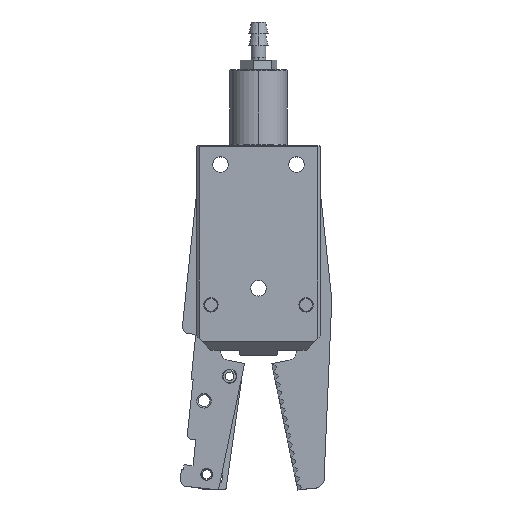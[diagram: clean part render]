
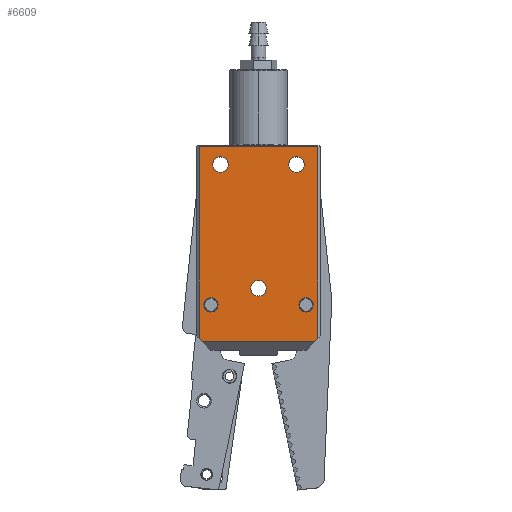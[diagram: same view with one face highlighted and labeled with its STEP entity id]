
A CAD part, top view. The second image highlights one B-rep face of the part: STEP entity #6609.
In plain terms, the highlighted planar face has unit normal (0, 0, 1).
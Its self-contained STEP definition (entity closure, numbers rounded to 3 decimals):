
#9 = CARTESIAN_POINT ( 'NONE',  ( 3.481, -20.571, 66.7 ) ) ;
#15 = VECTOR ( 'NONE', #2460, 1000. ) ;
#264 = CARTESIAN_POINT ( 'NONE',  ( -19.019, -12.921, 66.7 ) ) ;
#286 = EDGE_CURVE ( 'NONE', #7013, #6966, #3287, .T. ) ;
#319 = DIRECTION ( 'NONE',  ( 0., 0., 1. ) ) ;
#448 = CARTESIAN_POINT ( 'NONE',  ( 3.481, 20.379, 66.7 ) ) ;
#505 = ORIENTED_EDGE ( 'NONE', *, *, #9912, .F. ) ;
#507 = ORIENTED_EDGE ( 'NONE', *, *, #286, .F. ) ;
#597 = CARTESIAN_POINT ( 'NONE',  ( 0.981, -11.421, 66.7 ) ) ;
#630 = ORIENTED_EDGE ( 'NONE', *, *, #3660, .F. ) ;
#644 = CIRCLE ( 'NONE', #11252, 1.5 ) ;
#700 = DIRECTION ( 'NONE',  ( 1., 0., 0. ) ) ;
#780 = AXIS2_PLACEMENT_3D ( 'NONE', #9991, #319, #7396 ) ;
#834 = ORIENTED_EDGE ( 'NONE', *, *, #1973, .F. ) ;
#1015 = LINE ( 'NONE', #7117, #7538 ) ;
#1022 = FACE_BOUND ( 'NONE', #9416, .T. ) ;
#1266 = VERTEX_POINT ( 'NONE', #3812 ) ;
#1730 = EDGE_LOOP ( 'NONE', ( #8953, #11136 ) ) ;
#1746 = CIRCLE ( 'NONE', #10543, 1.65 ) ;
#1872 = VERTEX_POINT ( 'NONE', #3838 ) ;
#1896 = VECTOR ( 'NONE', #2714, 1000. ) ;
#1926 = EDGE_CURVE ( 'NONE', #6211, #6906, #2182, .T. ) ;
#1929 = EDGE_CURVE ( 'NONE', #1266, #2557, #8438, .T. ) ;
#1940 = CIRCLE ( 'NONE', #11417, 1.65 ) ;
#1942 = VERTEX_POINT ( 'NONE', #2201 ) ;
#1973 = EDGE_CURVE ( 'NONE', #6906, #6211, #644, .T. ) ;
#2126 = DIRECTION ( 'NONE',  ( 0., 1., 0. ) ) ;
#2130 = EDGE_CURVE ( 'NONE', #10500, #5006, #2495, .T. ) ;
#2143 = ORIENTED_EDGE ( 'NONE', *, *, #6298, .T. ) ;
#2182 = CIRCLE ( 'NONE', #10077, 1.5 ) ;
#2201 = CARTESIAN_POINT ( 'NONE',  ( 3.481, -19.921, 66.7 ) ) ;
#2410 = ORIENTED_EDGE ( 'NONE', *, *, #4309, .F. ) ;
#2460 = DIRECTION ( 'NONE',  ( -1., 0., 0. ) ) ;
#2495 = CIRCLE ( 'NONE', #2971, 1.65 ) ;
#2516 = DIRECTION ( 'NONE',  ( 0., 1., 0. ) ) ;
#2557 = VERTEX_POINT ( 'NONE', #4063 ) ;
#2624 = EDGE_CURVE ( 'NONE', #4747, #1872, #1940, .T. ) ;
#2714 = DIRECTION ( 'NONE',  ( 0., -1., 0. ) ) ;
#2776 = DIRECTION ( 'NONE',  ( 0., 0., -1. ) ) ;
#2782 = DIRECTION ( 'NONE',  ( 0., 0., -1. ) ) ;
#2801 = CARTESIAN_POINT ( 'NONE',  ( -21.519, -19.921, 66.7 ) ) ;
#2912 = DIRECTION ( 'NONE',  ( 0., 1., 0. ) ) ;
#2927 = ORIENTED_EDGE ( 'NONE', *, *, #9186, .F. ) ;
#2945 = VECTOR ( 'NONE', #5074, 1000. ) ;
#2971 = AXIS2_PLACEMENT_3D ( 'NONE', #5692, #2776, #5539 ) ;
#3000 = ORIENTED_EDGE ( 'NONE', *, *, #4591, .T. ) ;
#3032 = DIRECTION ( 'NONE',  ( 0., 0., -1. ) ) ;
#3044 = CARTESIAN_POINT ( 'NONE',  ( -1.019, 16.579, 66.7 ) ) ;
#3135 = VERTEX_POINT ( 'NONE', #3669 ) ;
#3200 = DIRECTION ( 'NONE',  ( 0., 1., 0. ) ) ;
#3287 = CIRCLE ( 'NONE', #780, 1.5 ) ;
#3309 = CARTESIAN_POINT ( 'NONE',  ( 3.481, -19.921, 66.7 ) ) ;
#3422 = CARTESIAN_POINT ( 'NONE',  ( -9.019, -9.421, 66.7 ) ) ;
#3659 = CARTESIAN_POINT ( 'NONE',  ( -17.019, 18.229, 66.7 ) ) ;
#3660 = EDGE_CURVE ( 'NONE', #6192, #1266, #5215, .T. ) ;
#3669 = CARTESIAN_POINT ( 'NONE',  ( -20.869, -20.571, 66.7 ) ) ;
#3677 = CARTESIAN_POINT ( 'NONE',  ( -17.019, 16.579, 66.7 ) ) ;
#3812 = CARTESIAN_POINT ( 'NONE',  ( -21.519, 20.379, 66.7 ) ) ;
#3821 = CIRCLE ( 'NONE', #7596, 1.65 ) ;
#3838 = CARTESIAN_POINT ( 'NONE',  ( -9.019, -7.771, 66.7 ) ) ;
#3988 = EDGE_CURVE ( 'NONE', #6204, #7544, #3821, .T. ) ;
#4051 = DIRECTION ( 'NONE',  ( 0., 1., 0. ) ) ;
#4063 = CARTESIAN_POINT ( 'NONE',  ( 3.481, 20.379, 66.7 ) ) ;
#4155 = AXIS2_PLACEMENT_3D ( 'NONE', #3044, #8308, #2126 ) ;
#4218 = CARTESIAN_POINT ( 'NONE',  ( -9.019, -9.421, 66.7 ) ) ;
#4309 = EDGE_CURVE ( 'NONE', #1942, #9053, #9127, .T. ) ;
#4490 = DIRECTION ( 'NONE',  ( 0., 0., -1. ) ) ;
#4591 = EDGE_CURVE ( 'NONE', #5006, #10500, #6659, .T. ) ;
#4594 = VECTOR ( 'NONE', #700, 1000. ) ;
#4747 = VERTEX_POINT ( 'NONE', #8377 ) ;
#4792 = LINE ( 'NONE', #6400, #15 ) ;
#4952 = DIRECTION ( 'NONE',  ( 0., 0., 1. ) ) ;
#5006 = VERTEX_POINT ( 'NONE', #10073 ) ;
#5074 = DIRECTION ( 'NONE',  ( -0.707, -0.707, 0. ) ) ;
#5215 = LINE ( 'NONE', #10690, #6433 ) ;
#5539 = DIRECTION ( 'NONE',  ( 0., 1., 0. ) ) ;
#5557 = FACE_BOUND ( 'NONE', #5720, .T. ) ;
#5571 = CARTESIAN_POINT ( 'NONE',  ( -19.019, -11.421, 66.7 ) ) ;
#5692 = CARTESIAN_POINT ( 'NONE',  ( -1.019, 16.579, 66.7 ) ) ;
#5720 = EDGE_LOOP ( 'NONE', ( #3000, #10580 ) ) ;
#5824 = FACE_OUTER_BOUND ( 'NONE', #8418, .T. ) ;
#6066 = EDGE_CURVE ( 'NONE', #1872, #4747, #6251, .T. ) ;
#6192 = VERTEX_POINT ( 'NONE', #2801 ) ;
#6204 = VERTEX_POINT ( 'NONE', #3659 ) ;
#6211 = VERTEX_POINT ( 'NONE', #8917 ) ;
#6248 = ORIENTED_EDGE ( 'NONE', *, *, #3988, .T. ) ;
#6251 = CIRCLE ( 'NONE', #8621, 1.65 ) ;
#6298 = EDGE_CURVE ( 'NONE', #7544, #6204, #1746, .T. ) ;
#6305 = EDGE_LOOP ( 'NONE', ( #834, #9967 ) ) ;
#6400 = CARTESIAN_POINT ( 'NONE',  ( 3.481, -20.571, 66.7 ) ) ;
#6433 = VECTOR ( 'NONE', #9709, 1000. ) ;
#6451 = CARTESIAN_POINT ( 'NONE',  ( 0.981, -12.921, 66.7 ) ) ;
#6609 = ADVANCED_FACE ( 'NONE', ( #5824, #10144, #7806, #5557, #1022, #10433 ), #7983, .F. ) ;
#6625 = DIRECTION ( 'NONE',  ( -0.707, 0.707, 0. ) ) ;
#6659 = CIRCLE ( 'NONE', #4155, 1.65 ) ;
#6906 = VERTEX_POINT ( 'NONE', #5571 ) ;
#6966 = VERTEX_POINT ( 'NONE', #597 ) ;
#7013 = VERTEX_POINT ( 'NONE', #8609 ) ;
#7094 = DIRECTION ( 'NONE',  ( 0., 1., 0. ) ) ;
#7117 = CARTESIAN_POINT ( 'NONE',  ( -20.869, -20.571, 66.7 ) ) ;
#7298 = CARTESIAN_POINT ( 'NONE',  ( -17.019, 14.929, 66.7 ) ) ;
#7396 = DIRECTION ( 'NONE',  ( 0., 1., 0. ) ) ;
#7538 = VECTOR ( 'NONE', #6625, 1000. ) ;
#7544 = VERTEX_POINT ( 'NONE', #7298 ) ;
#7596 = AXIS2_PLACEMENT_3D ( 'NONE', #3677, #3032, #3200 ) ;
#7806 = FACE_BOUND ( 'NONE', #8209, .T. ) ;
#7970 = CARTESIAN_POINT ( 'NONE',  ( 3.481, -20.571, 66.7 ) ) ;
#7983 = PLANE ( 'NONE',  #9266 ) ;
#8046 = DIRECTION ( 'NONE',  ( 0., 1., 0. ) ) ;
#8209 = EDGE_LOOP ( 'NONE', ( #505, #507 ) ) ;
#8223 = EDGE_CURVE ( 'NONE', #2557, #1942, #8947, .T. ) ;
#8308 = DIRECTION ( 'NONE',  ( 0., 0., -1. ) ) ;
#8377 = CARTESIAN_POINT ( 'NONE',  ( -9.019, -11.071, 66.7 ) ) ;
#8418 = EDGE_LOOP ( 'NONE', ( #9578, #2410, #11145, #10550, #630, #2927 ) ) ;
#8438 = LINE ( 'NONE', #448, #4594 ) ;
#8609 = CARTESIAN_POINT ( 'NONE',  ( 0.981, -14.421, 66.7 ) ) ;
#8621 = AXIS2_PLACEMENT_3D ( 'NONE', #3422, #8670, #2516 ) ;
#8670 = DIRECTION ( 'NONE',  ( 0., 0., -1. ) ) ;
#8859 = DIRECTION ( 'NONE',  ( 0., 0., 1. ) ) ;
#8917 = CARTESIAN_POINT ( 'NONE',  ( -19.019, -14.421, 66.7 ) ) ;
#8942 = CARTESIAN_POINT ( 'NONE',  ( -17.019, 16.579, 66.7 ) ) ;
#8947 = LINE ( 'NONE', #7970, #1896 ) ;
#8953 = ORIENTED_EDGE ( 'NONE', *, *, #6066, .T. ) ;
#9053 = VERTEX_POINT ( 'NONE', #9182 ) ;
#9127 = LINE ( 'NONE', #3309, #2945 ) ;
#9182 = CARTESIAN_POINT ( 'NONE',  ( 2.831, -20.571, 66.7 ) ) ;
#9186 = EDGE_CURVE ( 'NONE', #3135, #6192, #1015, .T. ) ;
#9256 = DIRECTION ( 'NONE',  ( 0., 1., 0. ) ) ;
#9266 = AXIS2_PLACEMENT_3D ( 'NONE', #9, #4490, #9710 ) ;
#9416 = EDGE_LOOP ( 'NONE', ( #6248, #2143 ) ) ;
#9578 = ORIENTED_EDGE ( 'NONE', *, *, #10439, .F. ) ;
#9709 = DIRECTION ( 'NONE',  ( 0., 1., 0. ) ) ;
#9710 = DIRECTION ( 'NONE',  ( -1., 0., 0. ) ) ;
#9912 = EDGE_CURVE ( 'NONE', #6966, #7013, #9983, .T. ) ;
#9967 = ORIENTED_EDGE ( 'NONE', *, *, #1926, .F. ) ;
#9983 = CIRCLE ( 'NONE', #10216, 1.5 ) ;
#9991 = CARTESIAN_POINT ( 'NONE',  ( 0.981, -12.921, 66.7 ) ) ;
#10073 = CARTESIAN_POINT ( 'NONE',  ( -1.019, 18.229, 66.7 ) ) ;
#10077 = AXIS2_PLACEMENT_3D ( 'NONE', #10552, #8859, #4051 ) ;
#10144 = FACE_BOUND ( 'NONE', #6305, .T. ) ;
#10216 = AXIS2_PLACEMENT_3D ( 'NONE', #6451, #4952, #9256 ) ;
#10398 = DIRECTION ( 'NONE',  ( 0., 0., 1. ) ) ;
#10433 = FACE_BOUND ( 'NONE', #1730, .T. ) ;
#10439 = EDGE_CURVE ( 'NONE', #9053, #3135, #4792, .T. ) ;
#10500 = VERTEX_POINT ( 'NONE', #10660 ) ;
#10543 = AXIS2_PLACEMENT_3D ( 'NONE', #8942, #2782, #8046 ) ;
#10550 = ORIENTED_EDGE ( 'NONE', *, *, #1929, .F. ) ;
#10552 = CARTESIAN_POINT ( 'NONE',  ( -19.019, -12.921, 66.7 ) ) ;
#10580 = ORIENTED_EDGE ( 'NONE', *, *, #2130, .T. ) ;
#10660 = CARTESIAN_POINT ( 'NONE',  ( -1.019, 14.929, 66.7 ) ) ;
#10690 = CARTESIAN_POINT ( 'NONE',  ( -21.519, -20.571, 66.7 ) ) ;
#10873 = DIRECTION ( 'NONE',  ( 0., 0., -1. ) ) ;
#11136 = ORIENTED_EDGE ( 'NONE', *, *, #2624, .T. ) ;
#11145 = ORIENTED_EDGE ( 'NONE', *, *, #8223, .F. ) ;
#11252 = AXIS2_PLACEMENT_3D ( 'NONE', #264, #10398, #7094 ) ;
#11417 = AXIS2_PLACEMENT_3D ( 'NONE', #4218, #10873, #2912 ) ;
